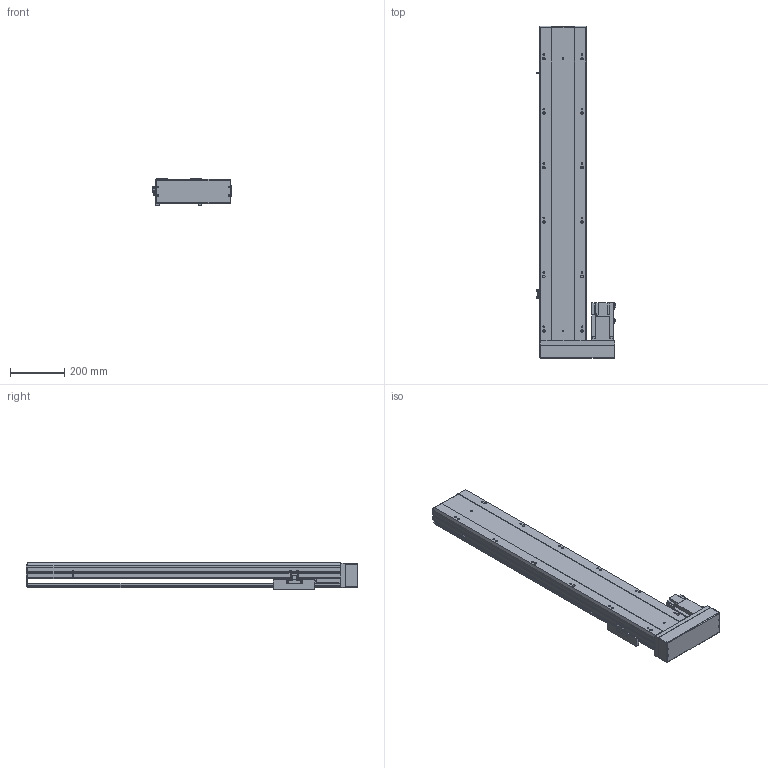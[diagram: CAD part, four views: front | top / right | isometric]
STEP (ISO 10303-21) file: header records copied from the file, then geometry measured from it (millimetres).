
FILE_DESCRIPTION (( 'STEP AP203' ), '1' );
FILE_NAME ('1.STEP', '2020-08-19T06:12:29', ( 'CXY' ), ( 'BOTI' ), 'SwSTEP 2.0', 'SolidWorks 2016', '' );
FILE_SCHEMA (( 'CONFIG_CONTROL_DESIGN' ));
Length unit declared in the file: millimetre
Products named in the file (15): BTH17M-BR-菁釱; BTH17M-BR-02; BTH17M-BR-04; BTH17M-BR-T75; 1; BTH17M-BR-01; BTH17M-BR-HZ
Assembly tree (8 placements, depth 2):
  BTH17M-BR-04
  BTH17M-BR-04
  1
    BTH17M-BR-菁釱
    BTH17M-BR-01
    BTH17M-BR-02
    BTH17M-BR-04  x3
    BTH17M-BR-HZ
    BTH17M-BR-T75
  BTH17M-BR-菁釱
  BTH17M-BR-02
Bounding box: 293 x 1219 x 97 mm (x, y, z)
Volume: 8891765.4 mm3; surface area: 1511113.1 mm2
Topology: 12 solids, 12 shells, 1048 faces, 2828 edges, 1845 vertices
Faces by surface type: plane 720, cylinder 278, cone 30, bspline 20
Full cylindrical faces by diameter (mm): 3.3 x4, 4.5 x14, 5 x10, 6 x10, 6.5 x4, 6.8 x12, 7.5 x4, 8 x6, 9 x12, 10 x4, 13.5 x12, 19 x1, 36 x1, 70 x1
Entity records: 26737 total; most frequent: CARTESIAN_POINT 5534, ORIENTED_EDGE 4016, DIRECTION 3984, EDGE_CURVE 2008, VECTOR 1444, LINE 1444, VERTEX_POINT 1368, AXIS2_PLACEMENT_3D 1270
